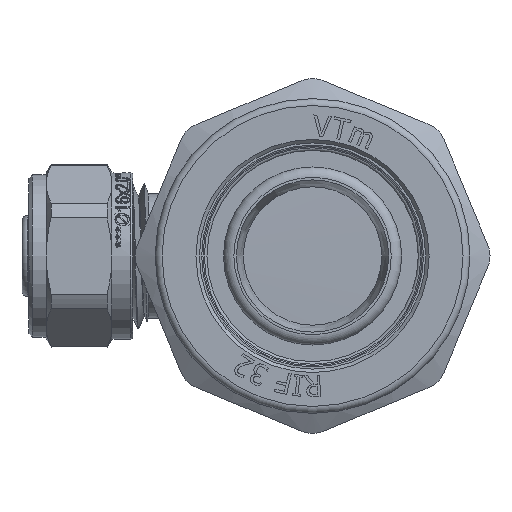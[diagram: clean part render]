
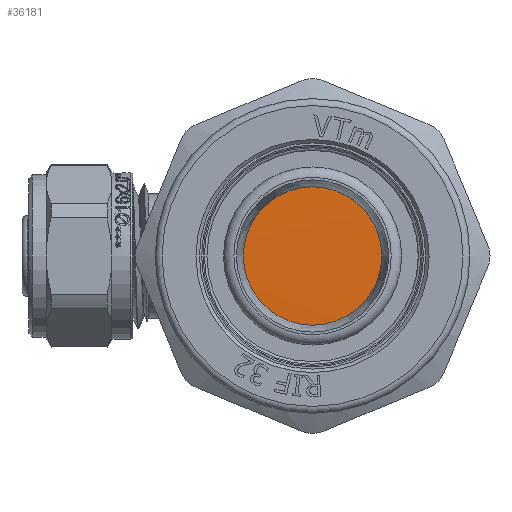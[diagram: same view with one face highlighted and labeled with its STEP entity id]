
A CAD part, left-side view. The second image highlights one B-rep face of the part: STEP entity #36181.
In plain terms, the highlighted cylindrical face has radius 21 mm (diameter 42 mm), a full revolution.
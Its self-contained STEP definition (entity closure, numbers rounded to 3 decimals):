
#2911=FACE_OUTER_BOUND('',#4962,.T.);
#4962=EDGE_LOOP('',(#24331,#24332,#24333));
#7192=B_SPLINE_CURVE_WITH_KNOTS('',3,(#46590,#46591,#46592,#46593,#46594,
#46595,#46596,#46597,#46598,#46599,#46600,#46601,#46602,#46603,#46604,#46605,
#46606),.UNSPECIFIED.,.F.,.F.,(4,1,1,1,1,1,1,1,1,1,1,1,1,1,4),(37.699,
37.812,38.309,38.807,39.304,39.801,
40.298,40.795,41.292,41.789,42.286,
42.783,43.28,43.777,43.982),
 .UNSPECIFIED.);
#9589=LINE('',#46167,#12069);
#9600=LINE('',#46589,#12080);
#12069=VECTOR('',#40054,21.);
#12080=VECTOR('',#40091,21.);
#14550=VERTEX_POINT('',#46165);
#14551=VERTEX_POINT('',#46166);
#14575=VERTEX_POINT('',#46588);
#18473=EDGE_CURVE('',#14550,#14551,#9589,.T.);
#18507=EDGE_CURVE('',#14575,#14551,#9600,.T.);
#18508=EDGE_CURVE('',#14575,#14550,#7192,.T.);
#24331=ORIENTED_EDGE('',*,*,#18473,.T.);
#24332=ORIENTED_EDGE('',*,*,#18507,.F.);
#24333=ORIENTED_EDGE('',*,*,#18508,.T.);
#35927=CYLINDRICAL_SURFACE('',#38254,21.);
#36181=ADVANCED_FACE('',(#2911),#35927,.T.);
#38254=AXIS2_PLACEMENT_3D('',#46587,#40089,#40090);
#40054=DIRECTION('',(-1.,0.,0.));
#40089=DIRECTION('center_axis',(-1.,0.,0.));
#40090=DIRECTION('ref_axis',(0.,-1.,0.));
#40091=DIRECTION('',(1.,0.,0.));
#46165=CARTESIAN_POINT('',(-25.5,21.,0.));
#46166=CARTESIAN_POINT('',(-26.9,21.,0.));
#46167=CARTESIAN_POINT('',(-29.626,21.,0.));
#46587=CARTESIAN_POINT('Origin',(-29.626,0.,
0.));
#46588=CARTESIAN_POINT('',(-27.,21.,0.));
#46589=CARTESIAN_POINT('',(-29.626,21.,0.));
#46590=CARTESIAN_POINT('Ctrl Pts',(-27.,21.,0.001));
#46591=CARTESIAN_POINT('Ctrl Pts',(-26.991,21.001,0.794));
#46592=CARTESIAN_POINT('Ctrl Pts',(-26.942,20.763,5.065));
#46593=CARTESIAN_POINT('Ctrl Pts',(-26.854,17.933,12.543));
#46594=CARTESIAN_POINT('Ctrl Pts',(-26.736,9.782,19.577));
#46595=CARTESIAN_POINT('Ctrl Pts',(-26.617,-0.737,
21.872));
#46596=CARTESIAN_POINT('Ctrl Pts',(-26.498,-11.077,
18.874));
#46597=CARTESIAN_POINT('Ctrl Pts',(-26.38,-18.737,11.308));
#46598=CARTESIAN_POINT('Ctrl Pts',(-26.261,-21.861,
1.005));
#46599=CARTESIAN_POINT('Ctrl Pts',(-26.142,-19.695,
-9.541));
#46600=CARTESIAN_POINT('Ctrl Pts',(-26.024,-12.762,
-17.778));
#46601=CARTESIAN_POINT('Ctrl Pts',(-25.905,-2.74,
-21.712));
#46602=CARTESIAN_POINT('Ctrl Pts',(-25.786,7.945,-20.392));
#46603=CARTESIAN_POINT('Ctrl Pts',(-25.668,16.707,-14.136));
#46604=CARTESIAN_POINT('Ctrl Pts',(-25.572,20.502,-6.353));
#46605=CARTESIAN_POINT('Ctrl Pts',(-25.516,20.999,-1.437));
#46606=CARTESIAN_POINT('Ctrl Pts',(-25.5,20.998,0.));
